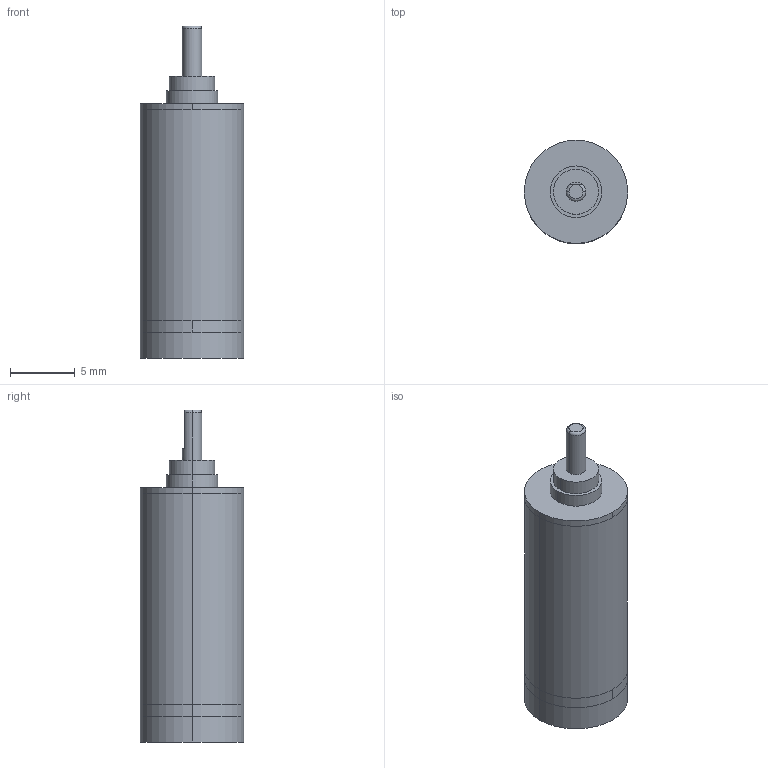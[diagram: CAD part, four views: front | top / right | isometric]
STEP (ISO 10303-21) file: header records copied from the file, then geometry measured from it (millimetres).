
FILE_DESCRIPTION (( 'STEP AP203' ), '1' );
FILE_NAME ('IG-08(II)-4stage.STEP', '2023-03-23T01:37:33', ( '' ), ( '' ), 'SwSTEP 2.0', 'SolidWorks 2019', '' );
FILE_SCHEMA (( 'CONFIG_CONTROL_DESIGN' ));
Length unit declared in the file: millimetre
Products named in the file (1): IG-08(II)-4stage
Bounding box: 8 x 8 x 25.7 mm (x, y, z)
Volume: 1066 mm3; surface area: 912 mm2
Topology: 3 solids, 3 shells, 35 faces, 66 edges, 43 vertices
Faces by surface type: cylinder 18, plane 14, torus 3
Entity records: 982 total; most frequent: DIRECTION 179, CARTESIAN_POINT 159, ORIENTED_EDGE 132, AXIS2_PLACEMENT_3D 79, EDGE_CURVE 66, VERTEX_POINT 43, CIRCLE 43, EDGE_LOOP 41
